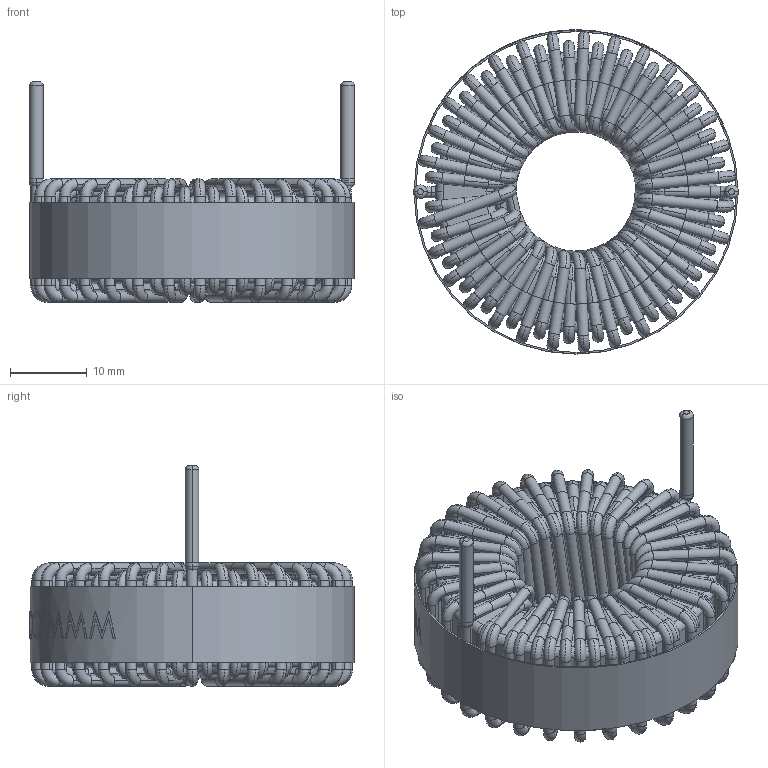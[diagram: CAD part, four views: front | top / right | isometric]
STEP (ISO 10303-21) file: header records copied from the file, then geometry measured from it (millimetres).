
FILE_DESCRIPTION (( 'STEP AP214' ), '1' );
FILE_NAME ('HF358-601M-8AH.STEP', '2021-03-18T10:32:02', ( '' ), ( '' ), 'SwSTEP 2.0', 'SolidWorks 2015', '' );
FILE_SCHEMA (( 'AUTOMOTIVE_DESIGN' ));
Length unit declared in the file: millimetre
Products named in the file (4): WRAPPER; WINDING; HF358-601M-8AH; CORE
Assembly tree (3 placements, depth 2):
  HF358-601M-8AH
    CORE
    WINDING
    WRAPPER
Bounding box: 42.42 x 42.32 x 28.8 mm (x, y, z)
Volume: 12723.8 mm3; surface area: 19117.6 mm2
Topology: 68 solids, 68 shells, 1428 faces, 3776 edges, 2500 vertices
Faces by surface type: cylinder 646, torus 506, plane 173, bspline 103
Entity records: 67428 total; most frequent: CARTESIAN_POINT 17968, DIRECTION 8891, ORIENTED_EDGE 7552, AXIS2_PLACEMENT_3D 4120, EDGE_CURVE 3776, CIRCLE 2789, VERTEX_POINT 2500, EDGE_LOOP 1448
